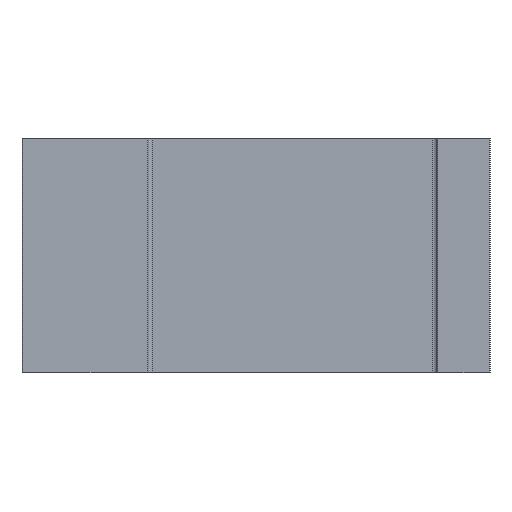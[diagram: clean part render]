
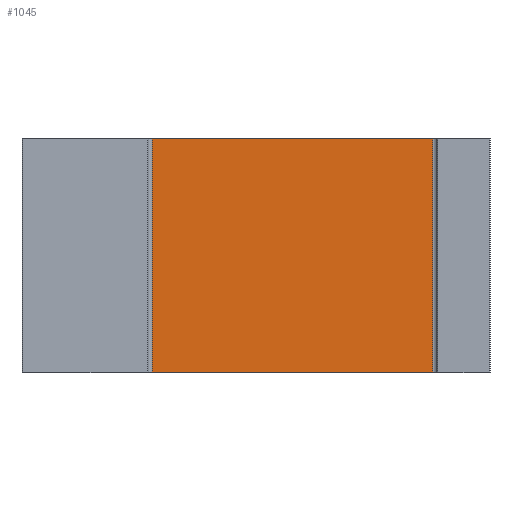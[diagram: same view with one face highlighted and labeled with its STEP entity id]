
A CAD part, front view. The second image highlights one B-rep face of the part: STEP entity #1045.
In plain terms, the highlighted planar face has unit normal (0, -1, 0).
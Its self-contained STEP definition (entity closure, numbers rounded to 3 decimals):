
#631 = VERTEX_POINT( '', #1743 );
#677 = EDGE_CURVE( '', #999, #631, #1792, .T. );
#701 = EDGE_CURVE( '', #1071, #631, #1817, .T. );
#819 = EDGE_CURVE( '', #1225, #1071, #1948, .T. );
#999 = VERTEX_POINT( '', #2152 );
#1045 = ADVANCED_FACE( '', ( #2201 ), #2202, .T. );
#1071 = VERTEX_POINT( '', #2230 );
#1221 = EDGE_CURVE( '', #1225, #999, #2393, .T. );
#1225 = VERTEX_POINT( '', #2397 );
#1743 = CARTESIAN_POINT( '', ( 20.4, 11.65, -34. ) );
#1792 = LINE( '', #3064, #3065 );
#1817 = LINE( '', #3102, #3103 );
#1948 = LINE( '', #3276, #3277 );
#2152 = CARTESIAN_POINT( '', ( -20.4, 11.65, -34. ) );
#2201 = FACE_OUTER_BOUND( '', #3627, .T. );
#2202 = PLANE( '', #3628 );
#2230 = CARTESIAN_POINT( '', ( 20.4, 11.65, 0. ) );
#2393 = LINE( '', #3898, #3899 );
#2397 = CARTESIAN_POINT( '', ( -20.4, 11.65, 0. ) );
#3064 = CARTESIAN_POINT( '', ( -20.4, 11.65, -34. ) );
#3065 = VECTOR( '', #4676, 1. );
#3102 = CARTESIAN_POINT( '', ( 20.4, 11.65, 0. ) );
#3103 = VECTOR( '', #4697, 1. );
#3276 = CARTESIAN_POINT( '', ( -20.4, 11.65, 0. ) );
#3277 = VECTOR( '', #4844, 1. );
#3627 = EDGE_LOOP( '', ( #5140, #5141, #5142, #5143 ) );
#3628 = AXIS2_PLACEMENT_3D( '', #5144, #5145, #5146 );
#3898 = CARTESIAN_POINT( '', ( -20.4, 11.65, 0. ) );
#3899 = VECTOR( '', #5340, 1. );
#4676 = DIRECTION( '', ( 1., 0., 0. ) );
#4697 = DIRECTION( '', ( 0., 0., -1. ) );
#4844 = DIRECTION( '', ( 1., 0., 0. ) );
#5140 = ORIENTED_EDGE( '', *, *, #677, .T. );
#5141 = ORIENTED_EDGE( '', *, *, #701, .F. );
#5142 = ORIENTED_EDGE( '', *, *, #819, .F. );
#5143 = ORIENTED_EDGE( '', *, *, #1221, .T. );
#5144 = CARTESIAN_POINT( '', ( -20.4, 11.65, 0. ) );
#5145 = DIRECTION( '', ( 0., -1., 0. ) );
#5146 = DIRECTION( '', ( -1., 0., 0. ) );
#5340 = DIRECTION( '', ( 0., 0., -1. ) );
